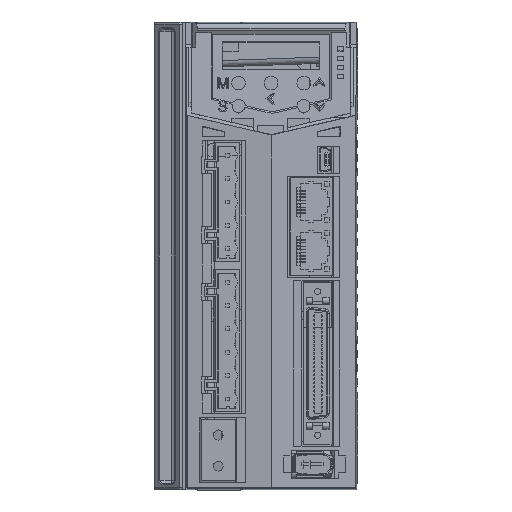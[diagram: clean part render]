
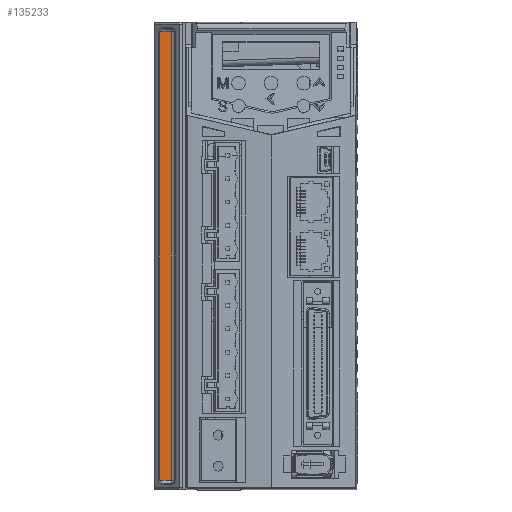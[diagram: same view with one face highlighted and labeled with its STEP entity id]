
A CAD part, front view. The second image highlights one B-rep face of the part: STEP entity #135233.
In plain terms, the highlighted planar face has unit normal (0, -1, 0).
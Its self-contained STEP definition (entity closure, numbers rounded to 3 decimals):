
#4373 = VECTOR ( 'NONE', #146723, 1000. ) ;
#7434 = CARTESIAN_POINT ( 'NONE',  ( 139.2, -45., -72. ) ) ;
#8207 = LINE ( 'NONE', #7434, #67281 ) ;
#10019 = CARTESIAN_POINT ( 'NONE',  ( 118., -45., -72. ) ) ;
#11509 = VECTOR ( 'NONE', #94801, 1000. ) ;
#14975 = AXIS2_PLACEMENT_3D ( 'NONE', #110127, #101346, #149711 ) ;
#21716 = CARTESIAN_POINT ( 'NONE',  ( 118., -45., 72. ) ) ;
#26685 = ORIENTED_EDGE ( 'NONE', *, *, #42958, .T. ) ;
#28280 = VERTEX_POINT ( 'NONE', #10019 ) ;
#35119 = CARTESIAN_POINT ( 'NONE',  ( 114.215, -45., -154. ) ) ;
#39145 = VERTEX_POINT ( 'NONE', #125425 ) ;
#39540 = VERTEX_POINT ( 'NONE', #137966 ) ;
#42958 = EDGE_CURVE ( 'NONE', #51887, #39145, #85670, .T. ) ;
#51887 = VERTEX_POINT ( 'NONE', #21716 ) ;
#59268 = EDGE_LOOP ( 'NONE', ( #62005, #26685, #156384, #93708 ) ) ;
#61105 = CARTESIAN_POINT ( 'NONE',  ( 119., -45., 72. ) ) ;
#62005 = ORIENTED_EDGE ( 'NONE', *, *, #89785, .T. ) ;
#67281 = VECTOR ( 'NONE', #104175, 1000. ) ;
#68654 = LINE ( 'NONE', #117037, #11509 ) ;
#70793 = LINE ( 'NONE', #35119, #77574 ) ;
#77574 = VECTOR ( 'NONE', #81145, 1000. ) ;
#81145 = DIRECTION ( 'NONE',  ( 0., 0., 1. ) ) ;
#85670 = LINE ( 'NONE', #61105, #4373 ) ;
#87872 = PLANE ( 'NONE',  #14975 ) ;
#89785 = EDGE_CURVE ( 'NONE', #28280, #51887, #68654, .T. ) ;
#90085 = EDGE_CURVE ( 'NONE', #39540, #28280, #8207, .T. ) ;
#91446 = EDGE_CURVE ( 'NONE', #39540, #39145, #70793, .T. ) ;
#93708 = ORIENTED_EDGE ( 'NONE', *, *, #90085, .T. ) ;
#94801 = DIRECTION ( 'NONE',  ( 0., 0., 1. ) ) ;
#101346 = DIRECTION ( 'NONE',  ( 0., -1., 0. ) ) ;
#104175 = DIRECTION ( 'NONE',  ( 1., 0., 0. ) ) ;
#110127 = CARTESIAN_POINT ( 'NONE',  ( 119., -45., -73. ) ) ;
#117037 = CARTESIAN_POINT ( 'NONE',  ( 118., -45., -73. ) ) ;
#125425 = CARTESIAN_POINT ( 'NONE',  ( 114.215, -45., 72. ) ) ;
#134696 = FACE_OUTER_BOUND ( 'NONE', #59268, .T. ) ;
#135233 = ADVANCED_FACE ( 'NONE', ( #134696 ), #87872, .T. ) ;
#137966 = CARTESIAN_POINT ( 'NONE',  ( 114.215, -45., -72. ) ) ;
#146723 = DIRECTION ( 'NONE',  ( -1., 0., 0. ) ) ;
#149711 = DIRECTION ( 'NONE',  ( 0., 0., -1. ) ) ;
#156384 = ORIENTED_EDGE ( 'NONE', *, *, #91446, .F. ) ;
